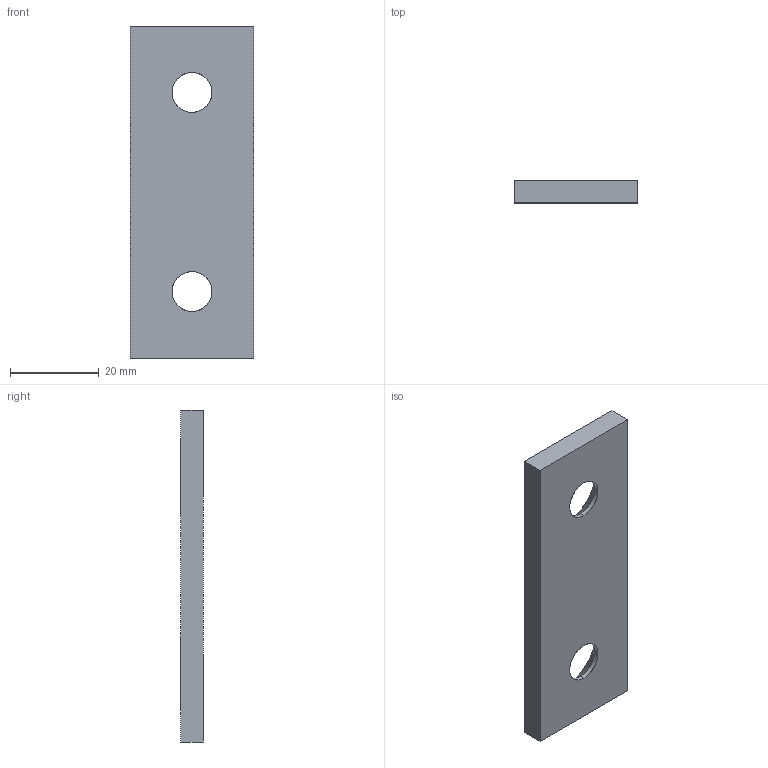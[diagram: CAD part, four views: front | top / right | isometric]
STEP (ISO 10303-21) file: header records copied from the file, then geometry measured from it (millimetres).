
FILE_DESCRIPTION(('CATIA V5 STEP Exchange'),'2;1');
FILE_NAME('C:\Users\Utente\Desktop\3D files A605\A605-028-075.stp','2020-04-13T15:45:26+00:00',('none'),('none'),'CATIA Version 5 Release 20 GA (IN-10)','CATIA V5 STEP AP203','none');
FILE_SCHEMA(('CONFIG_CONTROL_DESIGN'));
Length unit declared in the file: millimetre
Products named in the file (1): Noname
Bounding box: 28 x 5 x 75 mm (x, y, z)
Surface area: 5167.4 mm2 (no closed solid volume)
Topology: 0 solids, 10 shells, 14 faces, 56 edges, 48 vertices
Faces by surface type: extrusion 6, cylinder 4, revolution 4
Entity records: 726 total; most frequent: CARTESIAN_POINT 233, DIRECTION 66, ORIENTED_EDGE 64, EDGE_CURVE 56, VERTEX_POINT 48, VECTOR 38, LINE 32, AXIS2_PLACEMENT_3D 21
